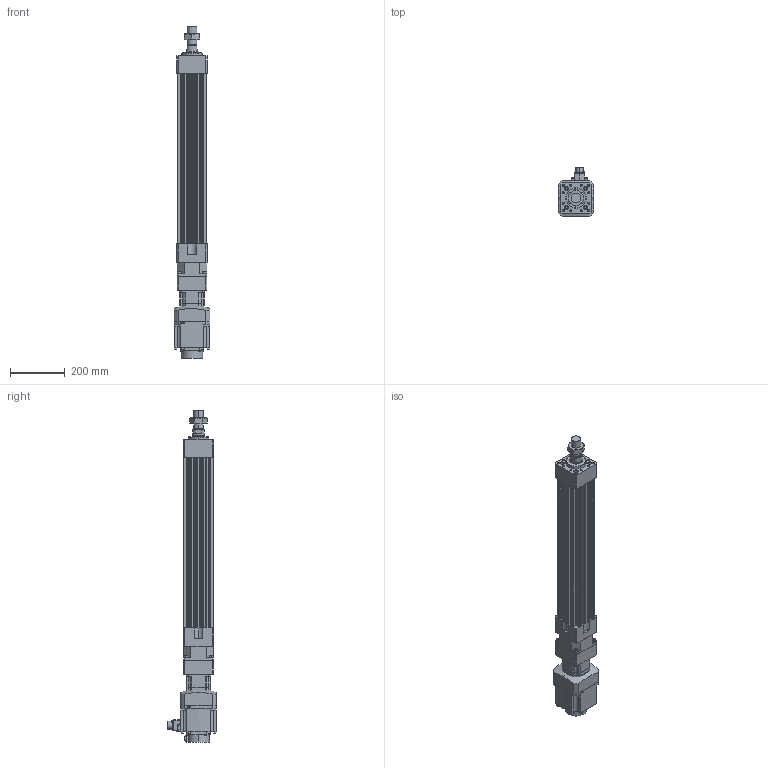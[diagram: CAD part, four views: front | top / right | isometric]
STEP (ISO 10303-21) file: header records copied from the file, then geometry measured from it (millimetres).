
FILE_DESCRIPTION (( 'STEP AP203' ), '1' );
FILE_NAME ('HES110NS(HS)-S450-W010G00-M.STEP', '2023-01-27T04:36:02', ( 'tms' ), ( '' ), 'SwSTEP 2.0', 'SolidWorks 2013', '' );
FILE_SCHEMA (( 'CONFIG_CONTROL_DESIGN' ));
Length unit declared in the file: millimetre
Products named in the file (8): AB0901; HES110-S450-G090; HES110 ROD M ST450; HES110NS(HS)-S450-W010G00-M; AB090-003[HG-SR102B]; HG-SR102; M36X1.5P; P0401301004
Assembly tree (7 placements, depth 3):
  HES110NS(HS)-S450-W010G00-M
    HES110-S450-G090
    HES110 ROD M ST450
    M36X1.5P
    AB090-003[HG-SR102B]
      AB0901
      P0401301004
    HG-SR102
Bounding box: 130 x 177.49 x 1208.5 mm (x, y, z)
Volume: 7723035.7 mm3; surface area: 1055802.2 mm2
Topology: 4 solids, 15 shells, 1197 faces, 3018 edges, 1947 vertices
Faces by surface type: plane 550, cylinder 535, cone 100, bspline 8, torus 4
Entity records: 37761 total; most frequent: CARTESIAN_POINT 7330, DIRECTION 6511, ORIENTED_EDGE 5944, EDGE_CURVE 2982, AXIS2_PLACEMENT_3D 2399, VERTEX_POINT 1947, VECTOR 1713, LINE 1713
